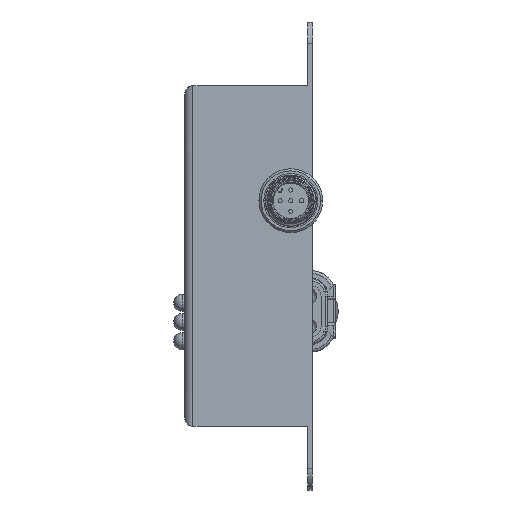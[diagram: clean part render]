
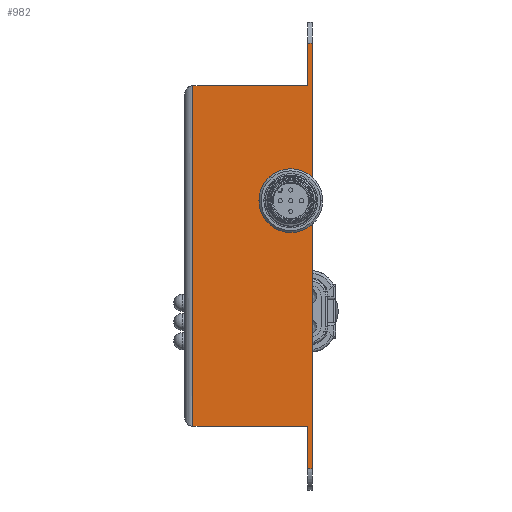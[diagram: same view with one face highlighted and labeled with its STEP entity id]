
A CAD part, left-side view. The second image highlights one B-rep face of the part: STEP entity #982.
In plain terms, the highlighted planar face has unit normal (-1, 0, 0).
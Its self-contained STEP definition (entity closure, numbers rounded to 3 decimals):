
#46=DIRECTION('',(0.,0.,1.));
#47=VECTOR('',#46,100.);
#48=CARTESIAN_POINT('',(-40.,0.,-50.));
#49=LINE('',#48,#47);
#147=DIRECTION('',(0.,0.,1.));
#148=VECTOR('',#147,10.);
#149=CARTESIAN_POINT('',(-40.,1.,-50.));
#150=LINE('',#149,#148);
#156=DIRECTION('',(0.,0.,1.));
#157=VECTOR('',#156,10.);
#158=CARTESIAN_POINT('',(-40.,1.,40.));
#159=LINE('',#158,#157);
#263=DIRECTION('',(0.,1.,0.));
#264=VECTOR('',#263,27.);
#265=CARTESIAN_POINT('',(-40.,1.,40.));
#266=LINE('',#265,#264);
#267=DIRECTION('',(0.,0.,1.));
#268=VECTOR('',#267,80.);
#269=CARTESIAN_POINT('',(-40.,28.,-40.));
#270=LINE('',#269,#268);
#271=DIRECTION('',(0.,-1.,0.));
#272=VECTOR('',#271,1.);
#273=CARTESIAN_POINT('',(-40.,1.,50.));
#274=LINE('',#273,#272);
#275=DIRECTION('',(0.,-1.,0.));
#276=VECTOR('',#275,1.);
#277=CARTESIAN_POINT('',(-40.,1.,-50.));
#278=LINE('',#277,#276);
#279=DIRECTION('',(0.,1.,0.));
#280=VECTOR('',#279,27.);
#281=CARTESIAN_POINT('',(-40.,1.,-40.));
#282=LINE('',#281,#280);
#283=CARTESIAN_POINT('',(-40.,5.,13.));
#284=DIRECTION('',(-1.,0.,0.));
#285=DIRECTION('',(0.,0.,1.));
#286=AXIS2_PLACEMENT_3D('',#283,#284,#285);
#288=CARTESIAN_POINT('',(-40.,5.,13.));
#289=DIRECTION('',(-1.,0.,0.));
#290=DIRECTION('',(0.,0.,-1.));
#291=AXIS2_PLACEMENT_3D('',#288,#289,#290);
#499=CARTESIAN_POINT('',(-40.,1.,-40.));
#501=VERTEX_POINT('',#499);
#503=CARTESIAN_POINT('',(-40.,1.,40.));
#505=VERTEX_POINT('',#503);
#539=CARTESIAN_POINT('',(-40.,0.,-50.));
#541=VERTEX_POINT('',#539);
#545=CARTESIAN_POINT('',(-40.,1.,-50.));
#546=VERTEX_POINT('',#545);
#548=CARTESIAN_POINT('',(-40.,0.,50.));
#550=VERTEX_POINT('',#548);
#551=CARTESIAN_POINT('',(-40.,1.,50.));
#552=VERTEX_POINT('',#551);
#576=CARTESIAN_POINT('',(-40.,28.,-40.));
#578=VERTEX_POINT('',#576);
#579=CARTESIAN_POINT('',(-40.,28.,40.));
#580=VERTEX_POINT('',#579);
#599=CARTESIAN_POINT('',(-40.,5.,15.5));
#600=CARTESIAN_POINT('',(-40.,5.,10.5));
#601=VERTEX_POINT('',#599);
#602=VERTEX_POINT('',#600);
#958=CARTESIAN_POINT('',(-40.,0.,-55.));
#959=DIRECTION('',(-1.,0.,0.));
#960=DIRECTION('',(0.,0.,1.));
#961=AXIS2_PLACEMENT_3D('',#958,#959,#960);
#962=PLANE('',#961);
#964=ORIENTED_EDGE('',*,*,#963,.T.);
#965=ORIENTED_EDGE('',*,*,#953,.F.);
#966=ORIENTED_EDGE('',*,*,#746,.T.);
#968=ORIENTED_EDGE('',*,*,#967,.T.);
#969=ORIENTED_EDGE('',*,*,#640,.F.);
#970=ORIENTED_EDGE('',*,*,#858,.F.);
#971=ORIENTED_EDGE('',*,*,#724,.T.);
#973=ORIENTED_EDGE('',*,*,#972,.T.);
#974=EDGE_LOOP('',(#964,#965,#966,#968,#969,#970,#971,#973));
#975=FACE_OUTER_BOUND('',#974,.F.);
#977=ORIENTED_EDGE('',*,*,#976,.T.);
#979=ORIENTED_EDGE('',*,*,#978,.T.);
#980=EDGE_LOOP('',(#977,#979));
#981=FACE_BOUND('',#980,.F.);
#982=ADVANCED_FACE('',(#975,#981),#962,.T.);
#287=CIRCLE('',#286,2.5);
#292=CIRCLE('',#291,2.5);
#640=EDGE_CURVE('',#541,#550,#49,.T.);
#724=EDGE_CURVE('',#546,#501,#150,.T.);
#746=EDGE_CURVE('',#505,#552,#159,.T.);
#858=EDGE_CURVE('',#546,#541,#278,.T.);
#953=EDGE_CURVE('',#505,#580,#266,.T.);
#963=EDGE_CURVE('',#578,#580,#270,.T.);
#967=EDGE_CURVE('',#552,#550,#274,.T.);
#972=EDGE_CURVE('',#501,#578,#282,.T.);
#976=EDGE_CURVE('',#601,#602,#287,.T.);
#978=EDGE_CURVE('',#602,#601,#292,.T.);
